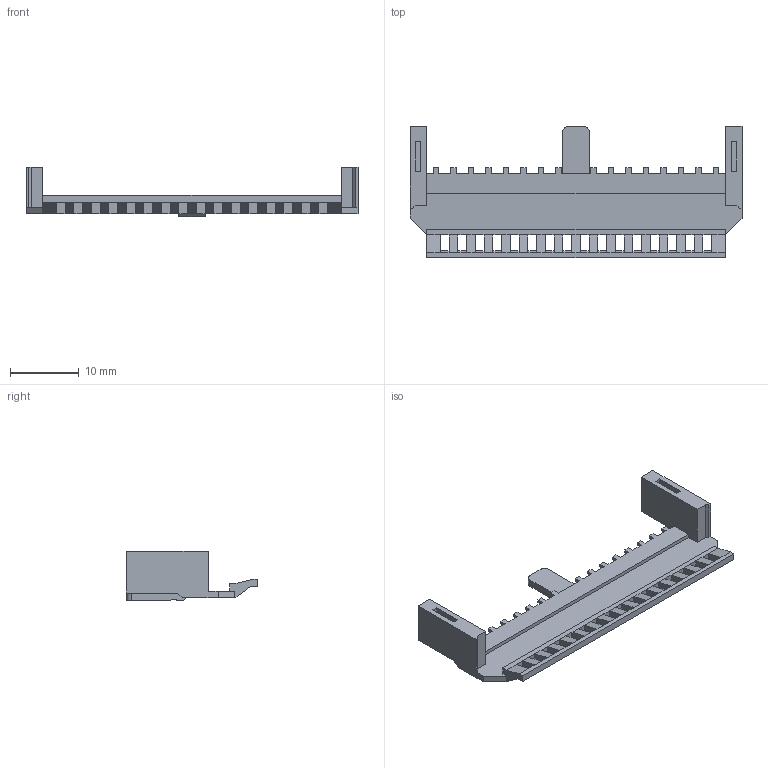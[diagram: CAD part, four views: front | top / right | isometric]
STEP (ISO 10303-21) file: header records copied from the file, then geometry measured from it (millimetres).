
FILE_DESCRIPTION((''),'2;1');
FILE_NAME('C-1-102537-5','2020-12-18T09:38:45',('workeradm'),('TE Connectivity Ltd.'),'CREO PARAMETRIC BY PTC INC, 2019292','CREO PARAMETRIC BY PTC INC, 2019292','');
FILE_SCHEMA(('AUTOMOTIVE_DESIGN { 1 0 10303 214 1 1 1 1 }'));
Length unit declared in the file: millimetre
Products named in the file (1): C-1-102537-5
Bounding box: 48.16 x 19.05 x 7.23 mm (x, y, z)
Volume: 971.1 mm3; surface area: 1943.5 mm2
Topology: 1 solids, 1 shells, 230 faces, 662 edges, 424 vertices
Faces by surface type: plane 227, cylinder 3
Entity records: 7572 total; most frequent: CARTESIAN_POINT 1310, ORIENTED_EDGE 1284, DIRECTION 1192, VECTOR 656, LINE 656, EDGE_CURVE 642, VERTEX_POINT 384, AXIS2_PLACEMENT_3D 268
